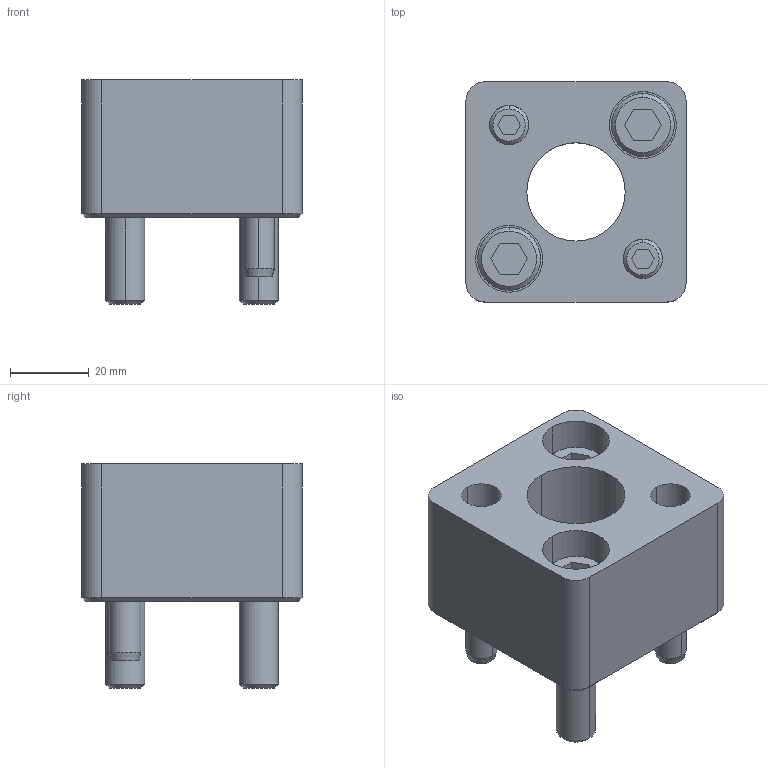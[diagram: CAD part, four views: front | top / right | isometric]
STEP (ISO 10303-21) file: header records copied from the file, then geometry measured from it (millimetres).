
FILE_DESCRIPTION(/* description */ (''),/* implementation_level */ '2;1');
FILE_NAME(/* name */ '3d_hasar25_04018_r00.stp',/* time_stamp */ '2011-01-10T14:14:56+09:00',/* author */ ('MISUMI'),/* organization */ (''),/* preprocessor_version */ 'ST-DEVELOPER v11',/* originating_system */ 'UGS - NX 5.0',/* authorisation */ '');
FILE_SCHEMA (('CONFIG_CONTROL_DESIGN'));
Length unit declared in the file: millimetre
Products named in the file (1): 3d_hasar25_04018_r00
Bounding box: 56 x 56 x 57 mm (x, y, z)
Volume: 87454.7 mm3; surface area: 27482.2 mm2
Topology: 7 solids, 7 shells, 143 faces, 310 edges, 196 vertices
Faces by surface type: plane 63, cylinder 50, cone 30
Entity records: 4026 total; most frequent: DIRECTION 718, CARTESIAN_POINT 704, ORIENTED_EDGE 620, EDGE_CURVE 310, AXIS2_PLACEMENT_3D 274, VERTEX_POINT 196, LINE 170, VECTOR 170
